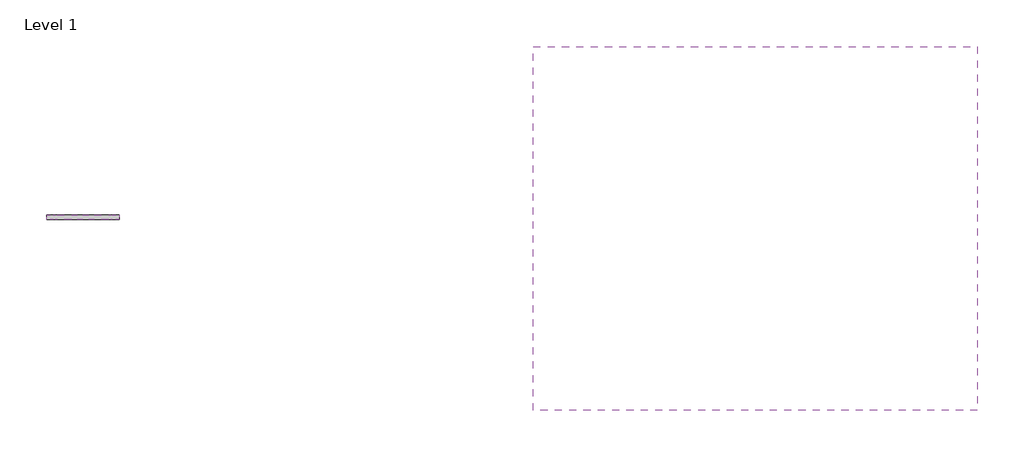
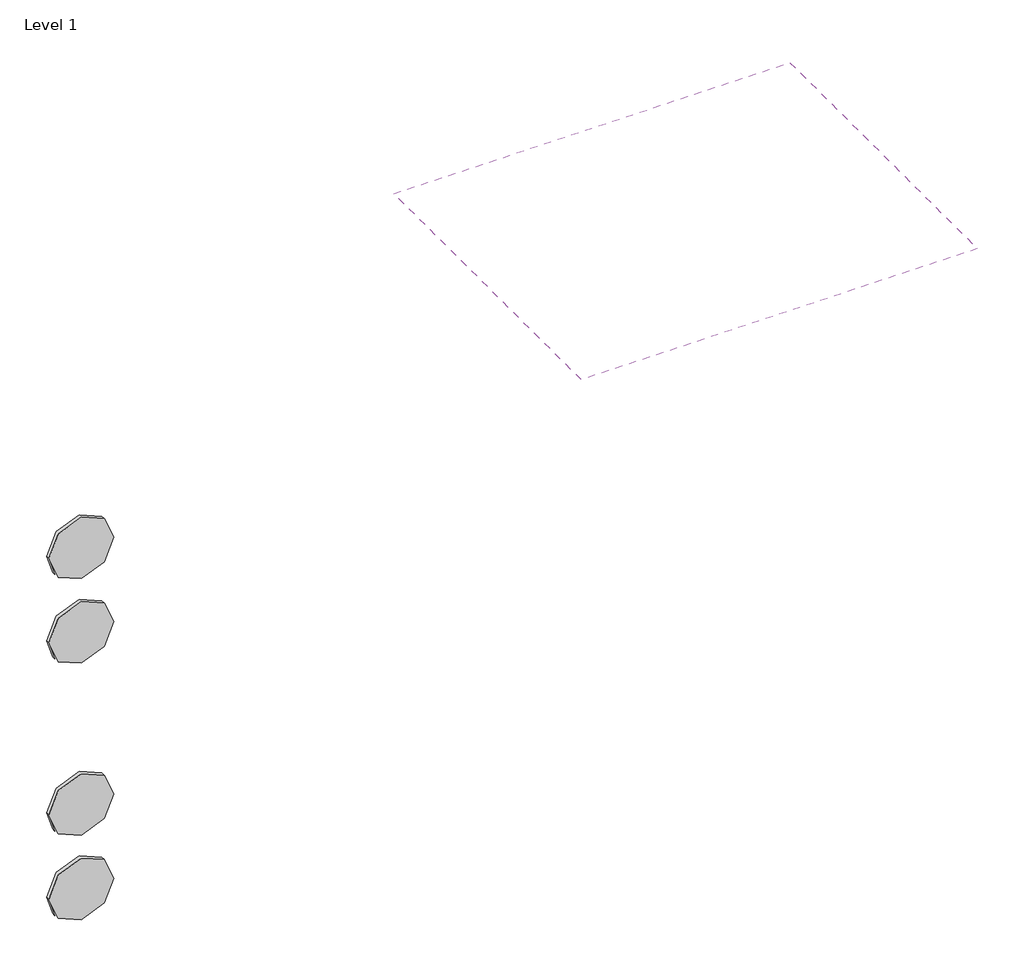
# One storey, incomplete: 4 proxies, 1 covering.
"""IFC4 building model written with IfcOpenShell, lengths in millimetres."""

from ifc_helpers import new_model, si_unit, frame, origin, place, context, project, spatial, polyline, outline, extrude, transform, mapped, element, save
from components import materialmodel_materialmodel_41144b76

model = new_model("IFC4")

# Units and contexts
model_context = context("Model", 3, world=origin())
ifc_project = project(units=[si_unit("LENGTHUNIT", "METRE", prefix="MILLI")], contexts=[model_context])

# Site, building, storey
site = spatial("IfcSite", under=ifc_project)
building = spatial("IfcBuilding", under=site)
storey = spatial("IfcBuildingStorey", under=building, Name="Level 1", Elevation=0.0)

# Proxies
placement = place(None, origin())
materialmodel_materialmodel_shape = materialmodel_materialmodel_41144b76(model_context)
element("IfcBuildingElementProxy", 1, Name="MaterialModel : MaterialModel", ObjectType="MaterialModel : MaterialModel", at=placement, inside=storey, context=model_context, shape_type="MappedRepresentation", body=[
    mapped(materialmodel_materialmodel_shape, transform((-15717.8072231, 6097.5863071, 656.7046249), x_axis=(1.0, 0.0, 0.0), y_axis=(0.0, 1.0, 0.0), z_axis=(0.0, 0.0, 1.0))),
])
element("IfcBuildingElementProxy", 2, Name="MaterialModel : MaterialModel", ObjectType="MaterialModel : MaterialModel", at=placement, inside=storey, context=model_context, shape_type="MappedRepresentation", body=[
    mapped(materialmodel_materialmodel_shape, transform((-15717.8072231, 6097.5863071, 381.7046249), x_axis=(1.0, 0.0, 0.0), y_axis=(0.0, 1.0, 0.0), z_axis=(0.0, 0.0, 1.0))),
])
element("IfcBuildingElementProxy", 3, Name="MaterialModel : MaterialModel", ObjectType="MaterialModel : MaterialModel", at=placement, inside=storey, context=model_context, shape_type="MappedRepresentation", body=[
    mapped(materialmodel_materialmodel_shape, transform((-15717.8072231, 6097.5863071, 1492.218674), x_axis=(1.0, 0.0, 0.0), y_axis=(0.0, 1.0, 0.0), z_axis=(0.0, 0.0, 1.0))),
])
element("IfcBuildingElementProxy", 4, Name="MaterialModel : MaterialModel", ObjectType="MaterialModel : MaterialModel", at=placement, inside=storey, context=model_context, shape_type="MappedRepresentation", body=[
    mapped(materialmodel_materialmodel_shape, transform((-15717.8072231, 6097.5863071, 1217.218674), x_axis=(1.0, 0.0, 0.0), y_axis=(0.0, 1.0, 0.0), z_axis=(0.0, 0.0, 1.0))),
])

# Covering
element("IfcCovering", 5, ObjectType="600 x 1200mm Grid", at=placement, inside=storey, context=model_context, shape_type="SweptSolid", body=[
    extrude(outline(polyline([(-13260.883584, 6561.1087432), (-13260.883584, 5561.1087432), (-14480.883584, 5561.1087432), (-14480.883584, 6561.1087432), (-13260.883584, 6561.1087432)])), frame((0.0, 0.0, 2000.0), z_axis=(0.0, 0.0, 1.0), x_axis=(1.0, 0.0, 0.0)), (0.0, 0.0, 1.0), 52.0),
])

save(model, "model.ifc")
